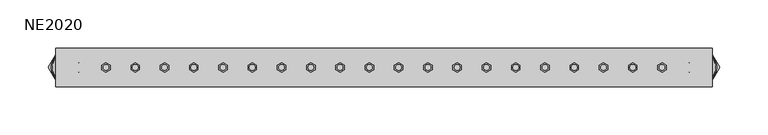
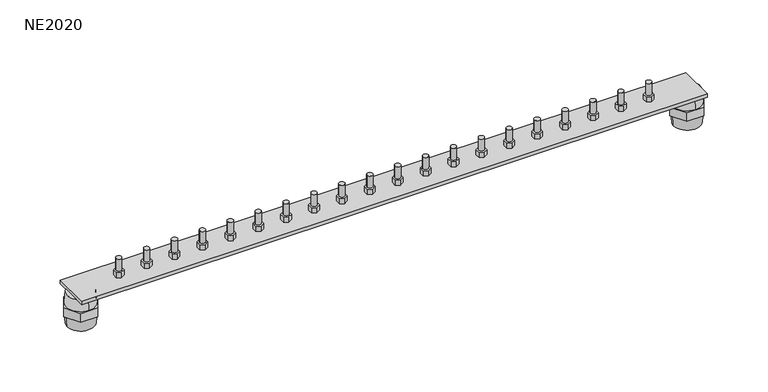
"""IFC4 building model written with IfcOpenShell, lengths in millimetres: proxy geometry, КНС_ШинаГлавнаяЗаземляющаяСИзоляторами_DKC : NE2020."""

from ifc_helpers import new_model, si_unit, point, frame, frame_2d, origin, place, context, project, spatial, polyline, circle_curve, trimmed, segment, composite_curve, outline, extrude, source, transform, mapped, element, save
from ifc_brep_helpers import plane_surface, revolved_surface, advanced_brep


def ne2020_a4f37fe4(model_context):
    return source(origin(), model_context, "Body", "SolidModel", [
        extrude(outline(polyline([(292.830127, -2.5), (288.5, -5.0), (284.169873, -2.5), (284.169873, 2.5), (288.5, 5.0), (292.830127, 2.5), (292.830127, -2.5)])), frame((0.0, 0.0, 40.0), z_axis=(0.0, 0.0, 1.0), x_axis=(1.0, 0.0, 0.0)), (0.0, 0.0, 1.0), 6.0),
        extrude(outline(composite_curve([segment(trimmed(circle_curve(frame_2d((288.5, 0.0)), 3.0), [point((285.5, 0.0))], [point((291.5, 0.0))], False, "CARTESIAN"), True, "CONTINUOUS"), segment(trimmed(circle_curve(frame_2d((288.5, 0.0)), 3.0), [point((291.5, 0.0))], [point((285.5, 0.0))], False, "CARTESIAN"), True, "CONTINUOUS")], self_intersect=False)), frame((0.0, 0.0, 46.0), z_axis=(0.0, 0.0, 1.0), x_axis=(1.0, 0.0, 0.0)), (0.0, 0.0, 1.0), 14.0),
        extrude(outline(polyline([(262.461706, -2.5), (258.1315789, -5.0), (253.8014519, -2.5), (253.8014519, 2.5), (258.1315789, 5.0), (262.461706, 2.5), (262.461706, -2.5)])), frame((0.0, 0.0, 40.0), z_axis=(0.0, 0.0, 1.0), x_axis=(1.0, 0.0, 0.0)), (0.0, 0.0, 1.0), 6.0),
        extrude(outline(composite_curve([segment(trimmed(circle_curve(frame_2d((258.1315789, 0.0)), 3.0), [point((255.1315789, 0.0))], [point((261.1315789, 0.0))], False, "CARTESIAN"), True, "CONTINUOUS"), segment(trimmed(circle_curve(frame_2d((258.1315789, 0.0)), 3.0), [point((261.1315789, 0.0))], [point((255.1315789, 0.0))], False, "CARTESIAN"), True, "CONTINUOUS")], self_intersect=False)), frame((0.0, 0.0, 46.0), z_axis=(0.0, 0.0, 1.0), x_axis=(1.0, 0.0, 0.0)), (0.0, 0.0, 1.0), 14.0),
        extrude(outline(polyline([(232.0932849, -2.5), (227.7631579, -5.0), (223.4330309, -2.5), (223.4330309, 2.5), (227.7631579, 5.0), (232.0932849, 2.5), (232.0932849, -2.5)])), frame((0.0, 0.0, 40.0), z_axis=(0.0, 0.0, 1.0), x_axis=(1.0, 0.0, 0.0)), (0.0, 0.0, 1.0), 6.0),
        extrude(outline(composite_curve([segment(trimmed(circle_curve(frame_2d((227.7631579, 0.0)), 3.0), [point((224.7631579, 0.0))], [point((230.7631579, 0.0))], False, "CARTESIAN"), True, "CONTINUOUS"), segment(trimmed(circle_curve(frame_2d((227.7631579, 0.0)), 3.0), [point((230.7631579, 0.0))], [point((224.7631579, 0.0))], False, "CARTESIAN"), True, "CONTINUOUS")], self_intersect=False)), frame((0.0, 0.0, 46.0), z_axis=(0.0, 0.0, 1.0), x_axis=(1.0, 0.0, 0.0)), (0.0, 0.0, 1.0), 14.0),
        extrude(outline(polyline([(201.7248639, -2.5), (197.3947368, -5.0), (193.0646098, -2.5), (193.0646098, 2.5), (197.3947368, 5.0), (201.7248639, 2.5), (201.7248639, -2.5)])), frame((0.0, 0.0, 40.0), z_axis=(0.0, 0.0, 1.0), x_axis=(1.0, 0.0, 0.0)), (0.0, 0.0, 1.0), 6.0),
        extrude(outline(composite_curve([segment(trimmed(circle_curve(frame_2d((197.3947368, 0.0)), 3.0), [point((194.3947368, 0.0))], [point((200.3947368, 0.0))], False, "CARTESIAN"), True, "CONTINUOUS"), segment(trimmed(circle_curve(frame_2d((197.3947368, 0.0)), 3.0), [point((200.3947368, 0.0))], [point((194.3947368, 0.0))], False, "CARTESIAN"), True, "CONTINUOUS")], self_intersect=False)), frame((0.0, 0.0, 46.0), z_axis=(0.0, 0.0, 1.0), x_axis=(1.0, 0.0, 0.0)), (0.0, 0.0, 1.0), 14.0),
        extrude(outline(polyline([(171.3564428, -2.5), (167.0263158, -5.0), (162.6961888, -2.5), (162.6961888, 2.5), (167.0263158, 5.0), (171.3564428, 2.5), (171.3564428, -2.5)])), frame((0.0, 0.0, 40.0), z_axis=(0.0, 0.0, 1.0), x_axis=(1.0, 0.0, 0.0)), (0.0, 0.0, 1.0), 6.0),
        extrude(outline(composite_curve([segment(trimmed(circle_curve(frame_2d((167.0263158, 0.0)), 3.0), [point((164.0263158, 0.0))], [point((170.0263158, 0.0))], False, "CARTESIAN"), True, "CONTINUOUS"), segment(trimmed(circle_curve(frame_2d((167.0263158, 0.0)), 3.0), [point((170.0263158, 0.0))], [point((164.0263158, 0.0))], False, "CARTESIAN"), True, "CONTINUOUS")], self_intersect=False)), frame((0.0, 0.0, 46.0), z_axis=(0.0, 0.0, 1.0), x_axis=(1.0, 0.0, 0.0)), (0.0, 0.0, 1.0), 14.0),
        extrude(outline(polyline([(140.9880218, -2.5), (136.6578947, -5.0), (132.3277677, -2.5), (132.3277677, 2.5), (136.6578947, 5.0), (140.9880218, 2.5), (140.9880218, -2.5)])), frame((0.0, 0.0, 40.0), z_axis=(0.0, 0.0, 1.0), x_axis=(1.0, 0.0, 0.0)), (0.0, 0.0, 1.0), 6.0),
        extrude(outline(composite_curve([segment(trimmed(circle_curve(frame_2d((136.6578947, 0.0)), 3.0), [point((133.6578947, 0.0))], [point((139.6578947, 0.0))], False, "CARTESIAN"), True, "CONTINUOUS"), segment(trimmed(circle_curve(frame_2d((136.6578947, 0.0)), 3.0), [point((139.6578947, 0.0))], [point((133.6578947, 0.0))], False, "CARTESIAN"), True, "CONTINUOUS")], self_intersect=False)), frame((0.0, 0.0, 46.0), z_axis=(0.0, 0.0, 1.0), x_axis=(1.0, 0.0, 0.0)), (0.0, 0.0, 1.0), 14.0),
        extrude(outline(polyline([(110.6196007, -2.5), (106.2894737, -5.0), (101.9593467, -2.5), (101.9593467, 2.5), (106.2894737, 5.0), (110.6196007, 2.5), (110.6196007, -2.5)])), frame((0.0, 0.0, 40.0), z_axis=(0.0, 0.0, 1.0), x_axis=(1.0, 0.0, 0.0)), (0.0, 0.0, 1.0), 6.0),
        extrude(outline(composite_curve([segment(trimmed(circle_curve(frame_2d((106.2894737, 0.0)), 3.0), [point((103.2894737, 0.0))], [point((109.2894737, 0.0))], False, "CARTESIAN"), True, "CONTINUOUS"), segment(trimmed(circle_curve(frame_2d((106.2894737, 0.0)), 3.0), [point((109.2894737, 0.0))], [point((103.2894737, 0.0))], False, "CARTESIAN"), True, "CONTINUOUS")], self_intersect=False)), frame((0.0, 0.0, 46.0), z_axis=(0.0, 0.0, 1.0), x_axis=(1.0, 0.0, 0.0)), (0.0, 0.0, 1.0), 14.0),
        extrude(outline(polyline([(80.2511797, -2.5), (75.9210526, -5.0), (71.5909256, -2.5), (71.5909256, 2.5), (75.9210526, 5.0), (80.2511797, 2.5), (80.2511797, -2.5)])), frame((0.0, 0.0, 40.0), z_axis=(0.0, 0.0, 1.0), x_axis=(1.0, 0.0, 0.0)), (0.0, 0.0, 1.0), 6.0),
        extrude(outline(composite_curve([segment(trimmed(circle_curve(frame_2d((75.9210526, 0.0)), 3.0), [point((72.9210526, 0.0))], [point((78.9210526, 0.0))], False, "CARTESIAN"), True, "CONTINUOUS"), segment(trimmed(circle_curve(frame_2d((75.9210526, 0.0)), 3.0), [point((78.9210526, 0.0))], [point((72.9210526, 0.0))], False, "CARTESIAN"), True, "CONTINUOUS")], self_intersect=False)), frame((0.0, 0.0, 46.0), z_axis=(0.0, 0.0, 1.0), x_axis=(1.0, 0.0, 0.0)), (0.0, 0.0, 1.0), 14.0),
        extrude(outline(polyline([(49.8827586, -2.5), (45.5526316, -5.0), (41.2225046, -2.5), (41.2225046, 2.5), (45.5526316, 5.0), (49.8827586, 2.5), (49.8827586, -2.5)])), frame((0.0, 0.0, 40.0), z_axis=(0.0, 0.0, 1.0), x_axis=(1.0, 0.0, 0.0)), (0.0, 0.0, 1.0), 6.0),
        extrude(outline(composite_curve([segment(trimmed(circle_curve(frame_2d((45.5526316, 0.0)), 3.0), [point((42.5526316, 0.0))], [point((48.5526316, 0.0))], False, "CARTESIAN"), True, "CONTINUOUS"), segment(trimmed(circle_curve(frame_2d((45.5526316, 0.0)), 3.0), [point((48.5526316, 0.0))], [point((42.5526316, 0.0))], False, "CARTESIAN"), True, "CONTINUOUS")], self_intersect=False)), frame((0.0, 0.0, 46.0), z_axis=(0.0, 0.0, 1.0), x_axis=(1.0, 0.0, 0.0)), (0.0, 0.0, 1.0), 14.0),
        extrude(outline(polyline([(19.5143375, -2.5), (15.1842105, -5.0), (10.8540835, -2.5), (10.8540835, 2.5), (15.1842105, 5.0), (19.5143375, 2.5), (19.5143375, -2.5)])), frame((0.0, 0.0, 40.0), z_axis=(0.0, 0.0, 1.0), x_axis=(1.0, 0.0, 0.0)), (0.0, 0.0, 1.0), 6.0),
        extrude(outline(composite_curve([segment(trimmed(circle_curve(frame_2d((15.1842105, 0.0)), 3.0), [point((12.1842105, 0.0))], [point((18.1842105, 0.0))], False, "CARTESIAN"), True, "CONTINUOUS"), segment(trimmed(circle_curve(frame_2d((15.1842105, 0.0)), 3.0), [point((18.1842105, 0.0))], [point((12.1842105, 0.0))], False, "CARTESIAN"), True, "CONTINUOUS")], self_intersect=False)), frame((0.0, 0.0, 46.0), z_axis=(0.0, 0.0, 1.0), x_axis=(1.0, 0.0, 0.0)), (0.0, 0.0, 1.0), 14.0),
        extrude(outline(polyline([(-10.8540835, -2.5), (-15.1842105, -5.0), (-19.5143375, -2.5), (-19.5143375, 2.5), (-15.1842105, 5.0), (-10.8540835, 2.5), (-10.8540835, -2.5)])), frame((0.0, 0.0, 40.0), z_axis=(0.0, 0.0, 1.0), x_axis=(1.0, 0.0, 0.0)), (0.0, 0.0, 1.0), 6.0),
        extrude(outline(composite_curve([segment(trimmed(circle_curve(frame_2d((-15.1842105, 0.0)), 3.0), [point((-18.1842105, 0.0))], [point((-12.1842105, 0.0))], False, "CARTESIAN"), True, "CONTINUOUS"), segment(trimmed(circle_curve(frame_2d((-15.1842105, 0.0)), 3.0), [point((-12.1842105, 0.0))], [point((-18.1842105, 0.0))], False, "CARTESIAN"), True, "CONTINUOUS")], self_intersect=False)), frame((0.0, 0.0, 46.0), z_axis=(0.0, 0.0, 1.0), x_axis=(1.0, 0.0, 0.0)), (0.0, 0.0, 1.0), 14.0),
        extrude(outline(polyline([(-41.2225046, -2.5), (-45.5526316, -5.0), (-49.8827586, -2.5), (-49.8827586, 2.5), (-45.5526316, 5.0), (-41.2225046, 2.5), (-41.2225046, -2.5)])), frame((0.0, 0.0, 40.0), z_axis=(0.0, 0.0, 1.0), x_axis=(1.0, 0.0, 0.0)), (0.0, 0.0, 1.0), 6.0),
        extrude(outline(composite_curve([segment(trimmed(circle_curve(frame_2d((-45.5526316, 0.0)), 3.0), [point((-48.5526316, 0.0))], [point((-42.5526316, 0.0))], False, "CARTESIAN"), True, "CONTINUOUS"), segment(trimmed(circle_curve(frame_2d((-45.5526316, 0.0)), 3.0), [point((-42.5526316, 0.0))], [point((-48.5526316, 0.0))], False, "CARTESIAN"), True, "CONTINUOUS")], self_intersect=False)), frame((0.0, 0.0, 46.0), z_axis=(0.0, 0.0, 1.0), x_axis=(1.0, 0.0, 0.0)), (0.0, 0.0, 1.0), 14.0),
        extrude(outline(polyline([(-71.5909256, -2.5), (-75.9210526, -5.0), (-80.2511797, -2.5), (-80.2511797, 2.5), (-75.9210526, 5.0), (-71.5909256, 2.5), (-71.5909256, -2.5)])), frame((0.0, 0.0, 40.0), z_axis=(0.0, 0.0, 1.0), x_axis=(1.0, 0.0, 0.0)), (0.0, 0.0, 1.0), 6.0),
        extrude(outline(composite_curve([segment(trimmed(circle_curve(frame_2d((-75.9210526, 0.0)), 3.0), [point((-78.9210526, 0.0))], [point((-72.9210526, 0.0))], False, "CARTESIAN"), True, "CONTINUOUS"), segment(trimmed(circle_curve(frame_2d((-75.9210526, 0.0)), 3.0), [point((-72.9210526, 0.0))], [point((-78.9210526, 0.0))], False, "CARTESIAN"), True, "CONTINUOUS")], self_intersect=False)), frame((0.0, 0.0, 46.0), z_axis=(0.0, 0.0, 1.0), x_axis=(1.0, 0.0, 0.0)), (0.0, 0.0, 1.0), 14.0),
        extrude(outline(polyline([(-101.9593467, -2.5), (-106.2894737, -5.0), (-110.6196007, -2.5), (-110.6196007, 2.5), (-106.2894737, 5.0), (-101.9593467, 2.5), (-101.9593467, -2.5)])), frame((0.0, 0.0, 40.0), z_axis=(0.0, 0.0, 1.0), x_axis=(1.0, 0.0, 0.0)), (0.0, 0.0, 1.0), 6.0),
        extrude(outline(composite_curve([segment(trimmed(circle_curve(frame_2d((-106.2894737, 0.0)), 3.0), [point((-109.2894737, 0.0))], [point((-103.2894737, 0.0))], False, "CARTESIAN"), True, "CONTINUOUS"), segment(trimmed(circle_curve(frame_2d((-106.2894737, 0.0)), 3.0), [point((-103.2894737, 0.0))], [point((-109.2894737, 0.0))], False, "CARTESIAN"), True, "CONTINUOUS")], self_intersect=False)), frame((0.0, 0.0, 46.0), z_axis=(0.0, 0.0, 1.0), x_axis=(1.0, 0.0, 0.0)), (0.0, 0.0, 1.0), 14.0),
        extrude(outline(polyline([(-132.3277677, -2.5), (-136.6578947, -5.0), (-140.9880218, -2.5), (-140.9880218, 2.5), (-136.6578947, 5.0), (-132.3277677, 2.5), (-132.3277677, -2.5)])), frame((0.0, 0.0, 40.0), z_axis=(0.0, 0.0, 1.0), x_axis=(1.0, 0.0, 0.0)), (0.0, 0.0, 1.0), 6.0),
        extrude(outline(composite_curve([segment(trimmed(circle_curve(frame_2d((-136.6578947, 0.0)), 3.0), [point((-139.6578947, 0.0))], [point((-133.6578947, 0.0))], False, "CARTESIAN"), True, "CONTINUOUS"), segment(trimmed(circle_curve(frame_2d((-136.6578947, 0.0)), 3.0), [point((-133.6578947, 0.0))], [point((-139.6578947, 0.0))], False, "CARTESIAN"), True, "CONTINUOUS")], self_intersect=False)), frame((0.0, 0.0, 46.0), z_axis=(0.0, 0.0, 1.0), x_axis=(1.0, 0.0, 0.0)), (0.0, 0.0, 1.0), 14.0),
        extrude(outline(polyline([(-162.6961888, -2.5), (-167.0263158, -5.0), (-171.3564428, -2.5), (-171.3564428, 2.5), (-167.0263158, 5.0), (-162.6961888, 2.5), (-162.6961888, -2.5)])), frame((0.0, 0.0, 40.0), z_axis=(0.0, 0.0, 1.0), x_axis=(1.0, 0.0, 0.0)), (0.0, 0.0, 1.0), 6.0),
        extrude(outline(composite_curve([segment(trimmed(circle_curve(frame_2d((-167.0263158, 0.0)), 3.0), [point((-170.0263158, 0.0))], [point((-164.0263158, 0.0))], False, "CARTESIAN"), True, "CONTINUOUS"), segment(trimmed(circle_curve(frame_2d((-167.0263158, 0.0)), 3.0), [point((-164.0263158, 0.0))], [point((-170.0263158, 0.0))], False, "CARTESIAN"), True, "CONTINUOUS")], self_intersect=False)), frame((0.0, 0.0, 46.0), z_axis=(0.0, 0.0, 1.0), x_axis=(1.0, 0.0, 0.0)), (0.0, 0.0, 1.0), 14.0),
        extrude(outline(polyline([(-193.0646098, -2.5), (-197.3947368, -5.0), (-201.7248639, -2.5), (-201.7248639, 2.5), (-197.3947368, 5.0), (-193.0646098, 2.5), (-193.0646098, -2.5)])), frame((0.0, 0.0, 40.0), z_axis=(0.0, 0.0, 1.0), x_axis=(1.0, 0.0, 0.0)), (0.0, 0.0, 1.0), 6.0),
        extrude(outline(composite_curve([segment(trimmed(circle_curve(frame_2d((-197.3947368, 0.0)), 3.0), [point((-200.3947368, 0.0))], [point((-194.3947368, 0.0))], False, "CARTESIAN"), True, "CONTINUOUS"), segment(trimmed(circle_curve(frame_2d((-197.3947368, 0.0)), 3.0), [point((-194.3947368, 0.0))], [point((-200.3947368, 0.0))], False, "CARTESIAN"), True, "CONTINUOUS")], self_intersect=False)), frame((0.0, 0.0, 46.0), z_axis=(0.0, 0.0, 1.0), x_axis=(1.0, 0.0, 0.0)), (0.0, 0.0, 1.0), 14.0),
        extrude(outline(polyline([(-223.4330309, -2.5), (-227.7631579, -5.0), (-232.0932849, -2.5), (-232.0932849, 2.5), (-227.7631579, 5.0), (-223.4330309, 2.5), (-223.4330309, -2.5)])), frame((0.0, 0.0, 40.0), z_axis=(0.0, 0.0, 1.0), x_axis=(1.0, 0.0, 0.0)), (0.0, 0.0, 1.0), 6.0),
        extrude(outline(composite_curve([segment(trimmed(circle_curve(frame_2d((-227.7631579, 0.0)), 3.0), [point((-230.7631579, 0.0))], [point((-224.7631579, 0.0))], False, "CARTESIAN"), True, "CONTINUOUS"), segment(trimmed(circle_curve(frame_2d((-227.7631579, 0.0)), 3.0), [point((-224.7631579, 0.0))], [point((-230.7631579, 0.0))], False, "CARTESIAN"), True, "CONTINUOUS")], self_intersect=False)), frame((0.0, 0.0, 46.0), z_axis=(0.0, 0.0, 1.0), x_axis=(1.0, 0.0, 0.0)), (0.0, 0.0, 1.0), 14.0),
        extrude(outline(polyline([(-253.8014519, -2.5), (-258.1315789, -5.0), (-262.461706, -2.5), (-262.461706, 2.5), (-258.1315789, 5.0), (-253.8014519, 2.5), (-253.8014519, -2.5)])), frame((0.0, 0.0, 40.0), z_axis=(0.0, 0.0, 1.0), x_axis=(1.0, 0.0, 0.0)), (0.0, 0.0, 1.0), 6.0),
        extrude(outline(composite_curve([segment(trimmed(circle_curve(frame_2d((-258.1315789, 0.0)), 3.0), [point((-261.1315789, 0.0))], [point((-255.1315789, 0.0))], False, "CARTESIAN"), True, "CONTINUOUS"), segment(trimmed(circle_curve(frame_2d((-258.1315789, 0.0)), 3.0), [point((-255.1315789, 0.0))], [point((-261.1315789, 0.0))], False, "CARTESIAN"), True, "CONTINUOUS")], self_intersect=False)), frame((0.0, 0.0, 46.0), z_axis=(0.0, 0.0, 1.0), x_axis=(1.0, 0.0, 0.0)), (0.0, 0.0, 1.0), 14.0),
        extrude(outline(polyline([(-284.169873, -2.5), (-288.5, -5.0), (-292.830127, -2.5), (-292.830127, 2.5), (-288.5, 5.0), (-284.169873, 2.5), (-284.169873, -2.5)])), frame((0.0, 0.0, 40.0), z_axis=(0.0, 0.0, 1.0), x_axis=(1.0, 0.0, 0.0)), (0.0, 0.0, 1.0), 6.0),
        extrude(outline(composite_curve([segment(trimmed(circle_curve(frame_2d((-288.5, 0.0)), 3.0), [point((-291.5, 0.0))], [point((-285.5, 0.0))], False, "CARTESIAN"), True, "CONTINUOUS"), segment(trimmed(circle_curve(frame_2d((-288.5, 0.0)), 3.0), [point((-285.5, 0.0))], [point((-291.5, 0.0))], False, "CARTESIAN"), True, "CONTINUOUS")], self_intersect=False)), frame((0.0, 0.0, 46.0), z_axis=(0.0, 0.0, 1.0), x_axis=(1.0, 0.0, 0.0)), (0.0, 0.0, 1.0), 14.0),
        advanced_brep(
        [(330.0, 15.5, 23.0), (330.0, -15.5, 23.0), (330.0, 14.5, 36.0), (330.0, -14.5, 36.0)],
        [
            (0, 1, circle_curve(frame((330.0, 0.0, 23.0), z_axis=(0.0, 0.0, -1.0), x_axis=(0.0, 1.0, 0.0)), 15.5)),
            (1, 0, circle_curve(frame((330.0, 0.0, 23.0), z_axis=(0.0, 0.0, -1.0), x_axis=(0.0, -1.0, 0.0)), 15.5)),
            (2, 3, circle_curve(frame((330.0, 0.0, 36.0), z_axis=(0.0, 0.0, 1.0), x_axis=(0.0, -1.0, 0.0)), 14.5)),
            (3, 2, circle_curve(frame((330.0, 0.0, 36.0), z_axis=(0.0, 0.0, 1.0), x_axis=(0.0, 1.0, 0.0)), 14.5)),
            (2, 0),
            (1, 3),
        ],
        [
            plane_surface(frame((330.0, 0.0, 23.0), z_axis=(0.0, 0.0, -1.0), x_axis=(-1.0, 0.0, 0.0))),
            plane_surface(frame((330.0, 0.0, 36.0), z_axis=(0.0, 0.0, 1.0), x_axis=(-1.0, 0.0, 0.0))),
            revolved_surface(polyline([(330.0, 14.5, 36.0), (330.0, 15.5, 23.0)]), (330.0, 0.0, 224.5), (0.0, 0.0, -1.0)),
            revolved_surface(polyline([(330.0, -14.5, 36.0), (330.0, -15.5, 23.0)]), (330.0, 0.0, 224.5), (0.0, 0.0, -1.0)),
        ],
        [
            (0, [[1, 2]]),
            (1, [[3, 4]]),
            (2, [[-3, 5, -2, 6]]),
            (3, [[-4, -6, -1, -5]]),
        ],
    ),
        advanced_brep(
        [(314.5, 0.0, 13.0), (345.5, 0.0, 13.0), (315.5, 0.0, 0.0), (344.5, 0.0, 0.0)],
        [
            (0, 1, circle_curve(frame((330.0, 0.0, 13.0), z_axis=(0.0, 0.0, 1.0), x_axis=(-1.0, 0.0, 0.0)), 15.5)),
            (1, 0, circle_curve(frame((330.0, 0.0, 13.0), z_axis=(0.0, 0.0, 1.0), x_axis=(1.0, 0.0, 0.0)), 15.5)),
            (2, 3, circle_curve(frame((330.0, 0.0, 0.0), z_axis=(0.0, 0.0, -1.0), x_axis=(1.0, 0.0, 0.0)), 14.5)),
            (3, 2, circle_curve(frame((330.0, 0.0, 0.0), z_axis=(0.0, 0.0, -1.0), x_axis=(-1.0, 0.0, 0.0)), 14.5)),
            (3, 1),
            (0, 2),
        ],
        [
            plane_surface(frame((330.0, 0.0, 13.0), z_axis=(0.0, 0.0, 1.0), x_axis=(0.0, -1.0, 0.0))),
            plane_surface(frame((330.0, 0.0, 0.0), z_axis=(0.0, 0.0, -1.0), x_axis=(0.0, -1.0, 0.0))),
            revolved_surface(polyline([(344.5, 0.0, 0.0), (345.5, 0.0, 13.0)]), (330.0, 0.0, -188.5), (0.0, 0.0, 1.0)),
            revolved_surface(polyline([(315.5, 0.0, 0.0), (314.5, 0.0, 13.0)]), (330.0, 0.0, -188.5), (0.0, 0.0, 1.0)),
        ],
        [
            (0, [[1, 2]]),
            (1, [[3, 4]]),
            (2, [[-4, 5, -1, 6]]),
            (3, [[-3, -6, -2, -5]]),
        ],
    ),
        advanced_brep(
        [(-330.0, 15.5, 23.0), (-330.0, -15.5, 23.0), (-330.0, 14.5, 36.0), (-330.0, -14.5, 36.0)],
        [
            (0, 1, circle_curve(frame((-330.0, 0.0, 23.0), z_axis=(0.0, 0.0, -1.0), x_axis=(0.0, 1.0, 0.0)), 15.5)),
            (1, 0, circle_curve(frame((-330.0, 0.0, 23.0), z_axis=(0.0, 0.0, -1.0), x_axis=(0.0, -1.0, 0.0)), 15.5)),
            (2, 3, circle_curve(frame((-330.0, 0.0, 36.0), z_axis=(0.0, 0.0, 1.0), x_axis=(0.0, -1.0, 0.0)), 14.5)),
            (3, 2, circle_curve(frame((-330.0, 0.0, 36.0), z_axis=(0.0, 0.0, 1.0), x_axis=(0.0, 1.0, 0.0)), 14.5)),
            (2, 0),
            (1, 3),
        ],
        [
            plane_surface(frame((-330.0, 0.0, 23.0), z_axis=(0.0, 0.0, -1.0), x_axis=(-1.0, 0.0, 0.0))),
            plane_surface(frame((-330.0, 0.0, 36.0), z_axis=(0.0, 0.0, 1.0), x_axis=(-1.0, 0.0, 0.0))),
            revolved_surface(polyline([(-330.0, 14.5, 36.0), (-330.0, 15.5, 23.0)]), (-330.0, 0.0, 224.5), (0.0, 0.0, -1.0)),
            revolved_surface(polyline([(-330.0, -14.5, 36.0), (-330.0, -15.5, 23.0)]), (-330.0, 0.0, 224.5), (0.0, 0.0, -1.0)),
        ],
        [
            (0, [[1, 2]]),
            (1, [[3, 4]]),
            (2, [[-3, 5, -2, 6]]),
            (3, [[-4, -6, -1, -5]]),
        ],
    ),
        advanced_brep(
        [(-345.5, 0.0, 13.0), (-314.5, 0.0, 13.0), (-344.5, 0.0, 0.0), (-315.5, 0.0, 0.0)],
        [
            (0, 1, circle_curve(frame((-330.0, 0.0, 13.0), z_axis=(0.0, 0.0, 1.0), x_axis=(-1.0, 0.0, 0.0)), 15.5)),
            (1, 0, circle_curve(frame((-330.0, 0.0, 13.0), z_axis=(0.0, 0.0, 1.0), x_axis=(1.0, 0.0, 0.0)), 15.5)),
            (2, 3, circle_curve(frame((-330.0, 0.0, 0.0), z_axis=(0.0, 0.0, -1.0), x_axis=(1.0, 0.0, 0.0)), 14.5)),
            (3, 2, circle_curve(frame((-330.0, 0.0, 0.0), z_axis=(0.0, 0.0, -1.0), x_axis=(-1.0, 0.0, 0.0)), 14.5)),
            (3, 1),
            (0, 2),
        ],
        [
            plane_surface(frame((-330.0, 0.0, 13.0), z_axis=(0.0, 0.0, 1.0), x_axis=(0.0, -1.0, 0.0))),
            plane_surface(frame((-330.0, 0.0, 0.0), z_axis=(0.0, 0.0, -1.0), x_axis=(0.0, -1.0, 0.0))),
            revolved_surface(polyline([(-315.5, 0.0, 0.0), (-314.5, 0.0, 13.0)]), (-330.0, 0.0, -188.5), (0.0, 0.0, 1.0)),
            revolved_surface(polyline([(-344.5, 0.0, 0.0), (-345.5, 0.0, 13.0)]), (-330.0, 0.0, -188.5), (0.0, 0.0, 1.0)),
        ],
        [
            (0, [[1, 2]]),
            (1, [[3, 4]]),
            (2, [[-4, 5, -1, 6]]),
            (3, [[-3, -6, -2, -5]]),
        ],
    ),
        extrude(outline(polyline([(340.5, -20.0), (-340.5, -20.0), (-340.5, 20.0), (340.5, 20.0), (340.5, -20.0)])), frame((0.0, 0.0, 36.0), z_axis=(0.0, 0.0, 1.0), x_axis=(1.0, 0.0, 0.0)), (0.0, 0.0, 1.0), 4.0),
        extrude(outline(polyline([(320.75, -16.02147), (311.5, 0.0), (320.75, 16.02147), (339.25, 16.02147), (348.5, 0.0), (339.25, -16.02147), (320.75, -16.02147)])), frame((0.0, 0.0, 13.0), z_axis=(0.0, 0.0, 1.0), x_axis=(1.0, 0.0, 0.0)), (0.0, 0.0, 1.0), 10.0),
        extrude(outline(polyline([(-339.25, -16.02147), (-348.5, 0.0), (-339.25, 16.02147), (-320.75, 16.02147), (-311.5, 0.0), (-320.75, -16.02147), (-339.25, -16.02147)])), frame((0.0, 0.0, 13.0), z_axis=(0.0, 0.0, 1.0), x_axis=(1.0, 0.0, 0.0)), (0.0, 0.0, 1.0), 10.0),
    ])


if __name__ == "__main__":
    model = new_model("IFC4")
    model_context = context("Model", 3, world=origin())
    ifc_project = project(units=[si_unit("LENGTHUNIT", "METRE", prefix="MILLI")], contexts=[model_context])
    site = spatial("IfcSite", under=ifc_project)
    building = spatial("IfcBuilding", under=site)
    placement = place(None, origin())
    ne2020_shape = ne2020_a4f37fe4(model_context)
    element("IfcBuildingElementProxy", 1, Name="КНС_ШинаГлавнаяЗаземляющаяСИзоляторами_DKC : NE2020", ObjectType="КНС_ШинаГлавнаяЗаземляющаяСИзоляторами_DKC : NE2020", at=placement, inside=building, context=model_context, shape_type="MappedRepresentation", body=[
        mapped(ne2020_shape, transform((0.0, 0.0, 0.0), x_axis=(1.0, 0.0, 0.0), y_axis=(0.0, 1.0, 0.0), z_axis=(0.0, 0.0, 1.0))),
    ])
    save(model, "model.ifc")
